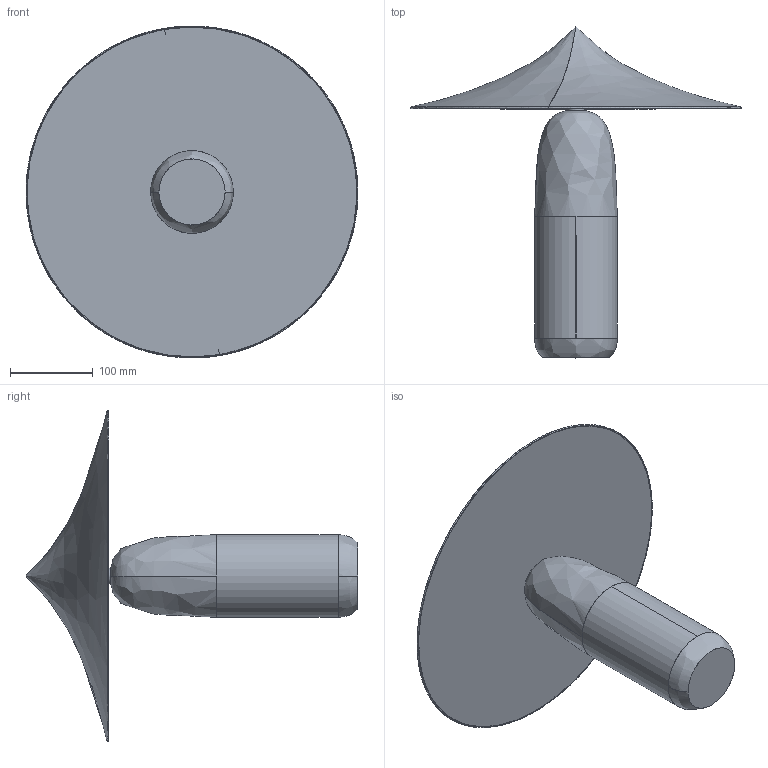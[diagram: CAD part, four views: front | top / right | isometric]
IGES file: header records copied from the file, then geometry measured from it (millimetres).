
Start section: SolidWorks IGES file using analytic representation for surfaces
Global section: file name: C:\Users\Agus\Desktop\JAN2021_3D_Novelties\S1288\S1288.IGS; native system: SolidWorks 2018; preprocessor: SolidWorks 2018; author: Agus; date: 210125.173149; units: millimetre
Bounding box: 401.5 x 401.63 x 401.51 mm (x, y, z)
Surface area: 624257.9 mm2 (no closed solid volume)
Topology: 0 solids, 0 shells, 30 faces, 524 edges, 520 vertices
Faces by surface type: bspline 16, revolution 14
